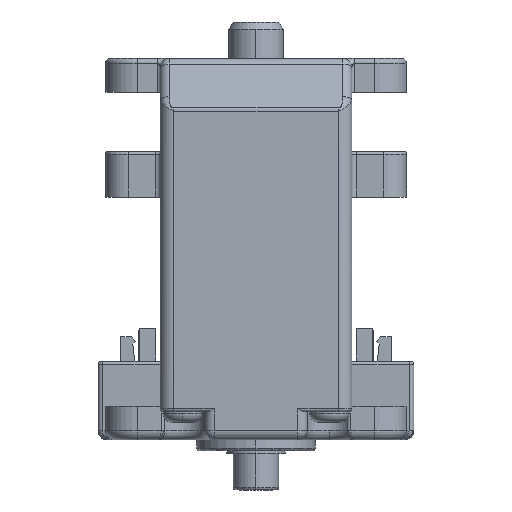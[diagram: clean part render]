
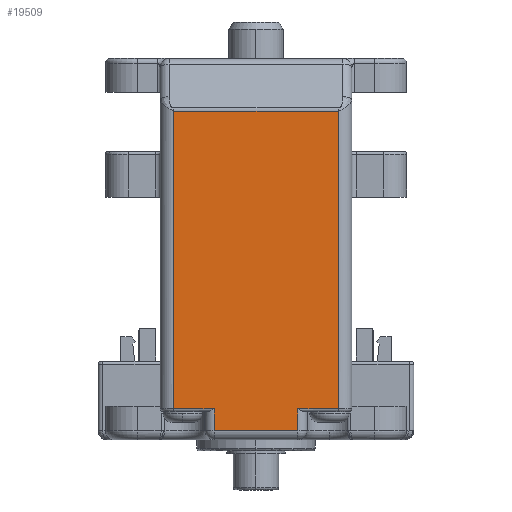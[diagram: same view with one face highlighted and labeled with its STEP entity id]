
A CAD part, left-side view. The second image highlights one B-rep face of the part: STEP entity #19509.
In plain terms, the highlighted planar face has unit normal (-1, 0, 0).
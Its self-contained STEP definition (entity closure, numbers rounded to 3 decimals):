
#5594 = CARTESIAN_POINT ( 'NONE',  ( -30.2, -9., -38.4 ) ) ;
#5751 = CARTESIAN_POINT ( 'NONE',  ( -30.2, -4.6, -40.8 ) ) ;
#5881 = CARTESIAN_POINT ( 'NONE',  ( -30.2, 4.6, -40.8 ) ) ;
#17809 = VERTEX_POINT ( 'NONE', #5594 ) ;
#17868 = VERTEX_POINT ( 'NONE', #5751 ) ;
#17895 = VERTEX_POINT ( 'NONE', #5881 ) ;
#18733 = VERTEX_POINT ( 'NONE', #21039 ) ;
#18772 = EDGE_CURVE ( 'NONE', #18785, #18733, #21304, .T. ) ;
#18785 = VERTEX_POINT ( 'NONE', #21325 ) ;
#18805 = EDGE_CURVE ( 'NONE', #18842, #17868, #21499, .T. ) ;
#18810 = EDGE_CURVE ( 'NONE', #17868, #17895, #21495, .T. ) ;
#18815 = EDGE_CURVE ( 'NONE', #17895, #18817, #21490, .T. ) ;
#18817 = VERTEX_POINT ( 'NONE', #21488 ) ;
#18829 = EDGE_CURVE ( 'NONE', #17809, #18842, #21518, .T. ) ;
#18834 = EDGE_CURVE ( 'NONE', #18733, #17809, #21507, .T. ) ;
#18842 = VERTEX_POINT ( 'NONE', #21562 ) ;
#18866 = VERTEX_POINT ( 'NONE', #21621 ) ;
#18879 = EDGE_CURVE ( 'NONE', #18817, #18866, #21600, .T. ) ;
#19509 = ADVANCED_FACE ( 'NONE', ( #23873 ), #23866, .F. ) ;
#19510 = EDGE_LOOP ( 'NONE', ( #19511, #19512, #19513, #19514, #19515, #19574, #19573, #19571 ) ) ;
#19511 = ORIENTED_EDGE ( 'NONE', *, *, #18815, .F. ) ;
#19512 = ORIENTED_EDGE ( 'NONE', *, *, #18810, .F. ) ;
#19513 = ORIENTED_EDGE ( 'NONE', *, *, #18805, .F. ) ;
#19514 = ORIENTED_EDGE ( 'NONE', *, *, #18829, .F. ) ;
#19515 = ORIENTED_EDGE ( 'NONE', *, *, #18834, .F. ) ;
#19571 = ORIENTED_EDGE ( 'NONE', *, *, #18879, .F. ) ;
#19573 = ORIENTED_EDGE ( 'NONE', *, *, #19589, .F. ) ;
#19574 = ORIENTED_EDGE ( 'NONE', *, *, #18772, .F. ) ;
#19589 = EDGE_CURVE ( 'NONE', #18866, #18785, #24147, .T. ) ;
#21039 = CARTESIAN_POINT ( 'NONE',  ( -30.2, -9., -5.793 ) ) ;
#21301 = DIRECTION ( 'NONE',  ( 0., -1., 0. ) ) ;
#21302 = VECTOR ( 'NONE', #21301, 1000. ) ;
#21303 = CARTESIAN_POINT ( 'NONE',  ( -30.2, 10.5, -5.793 ) ) ;
#21304 = LINE ( 'NONE', #21303, #21302 ) ;
#21325 = CARTESIAN_POINT ( 'NONE',  ( -30.2, 9., -5.793 ) ) ;
#21466 = DIRECTION ( 'NONE',  ( 0., 0., 1. ) ) ;
#21467 = VECTOR ( 'NONE', #21466, 1000. ) ;
#21468 = CARTESIAN_POINT ( 'NONE',  ( -30.2, 4.6, -36.8 ) ) ;
#21488 = CARTESIAN_POINT ( 'NONE',  ( -30.2, 4.6, -38.4 ) ) ;
#21490 = LINE ( 'NONE', #21468, #21467 ) ;
#21492 = DIRECTION ( 'NONE',  ( 0., 1., 0. ) ) ;
#21493 = VECTOR ( 'NONE', #21492, 1000. ) ;
#21494 = CARTESIAN_POINT ( 'NONE',  ( -30.2, 10.5, -40.8 ) ) ;
#21495 = LINE ( 'NONE', #21494, #21493 ) ;
#21496 = DIRECTION ( 'NONE',  ( 0., 0., -1. ) ) ;
#21497 = VECTOR ( 'NONE', #21496, 1000. ) ;
#21498 = CARTESIAN_POINT ( 'NONE',  ( -30.2, -4.6, -36.8 ) ) ;
#21499 = LINE ( 'NONE', #21498, #21497 ) ;
#21504 = DIRECTION ( 'NONE',  ( 0., 0., -1. ) ) ;
#21505 = VECTOR ( 'NONE', #21504, 1000. ) ;
#21506 = CARTESIAN_POINT ( 'NONE',  ( -30.2, -9., -36.8 ) ) ;
#21507 = LINE ( 'NONE', #21506, #21505 ) ;
#21515 = DIRECTION ( 'NONE',  ( 0., 1., 0. ) ) ;
#21516 = VECTOR ( 'NONE', #21515, 1000. ) ;
#21517 = CARTESIAN_POINT ( 'NONE',  ( -30.2, 10.5, -38.4 ) ) ;
#21518 = LINE ( 'NONE', #21517, #21516 ) ;
#21562 = CARTESIAN_POINT ( 'NONE',  ( -30.2, -4.6, -38.4 ) ) ;
#21597 = DIRECTION ( 'NONE',  ( 0., 1., 0. ) ) ;
#21598 = VECTOR ( 'NONE', #21597, 1000. ) ;
#21599 = CARTESIAN_POINT ( 'NONE',  ( -30.2, 10.5, -38.4 ) ) ;
#21600 = LINE ( 'NONE', #21599, #21598 ) ;
#21621 = CARTESIAN_POINT ( 'NONE',  ( -30.2, 9., -38.4 ) ) ;
#23866 = PLANE ( 'NONE',  #23868 ) ;
#23868 = AXIS2_PLACEMENT_3D ( 'NONE', #23920, #23919, #23918 ) ;
#23873 = FACE_OUTER_BOUND ( 'NONE', #19510, .T. ) ;
#23918 = DIRECTION ( 'NONE',  ( 0., 0., -1. ) ) ;
#23919 = DIRECTION ( 'NONE',  ( 1., 0., 0. ) ) ;
#23920 = CARTESIAN_POINT ( 'NONE',  ( -30.2, 10.5, -36.8 ) ) ;
#24144 = DIRECTION ( 'NONE',  ( 0., 0., 1. ) ) ;
#24145 = VECTOR ( 'NONE', #24144, 1000. ) ;
#24146 = CARTESIAN_POINT ( 'NONE',  ( -30.2, 9., -36.9 ) ) ;
#24147 = LINE ( 'NONE', #24146, #24145 ) ;
